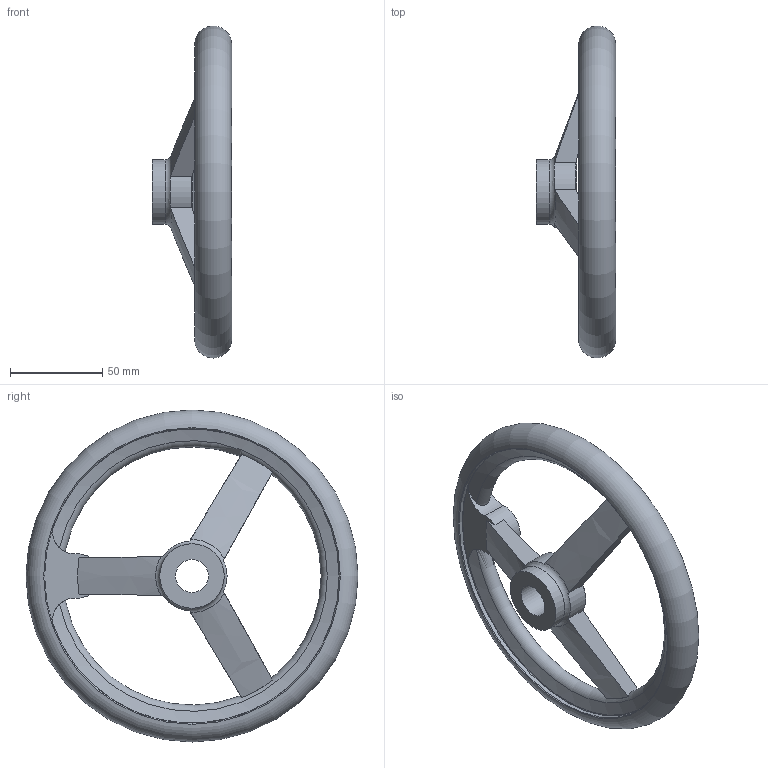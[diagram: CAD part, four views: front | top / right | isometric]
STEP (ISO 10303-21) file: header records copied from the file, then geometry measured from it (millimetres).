
FILE_DESCRIPTION( ( 'STEP AP203' ), '1' );
FILE_NAME( 'C:/Temp/Ganter_Step_05_03_2020/data/1_3/din_950/din_950_b/din_950_b_a/Handwheel DIN 950-GG-180-B18-A.stp', '2020-03-05T10:29:20', ( 'License CC BY-ND 4.0' ), ( 'CADENAS' ), ' ', 'PARTsolutions', ' ' );
FILE_SCHEMA( ( 'CONFIG_CONTROL_DESIGN' ) );
Length unit declared in the file: millimetre
Products named in the file (1): _Handwheel DIN 950-GG-180-B18-A
Bounding box: 43 x 179.99 x 179.99 mm (x, y, z)
Volume: 184154.2 mm3; surface area: 46724.1 mm2
Topology: 1 solids, 1 shells, 39 faces, 114 edges, 73 vertices
Faces by surface type: torus 12, cylinder 11, plane 10, cone 6
Full cylindrical faces by diameter (mm): 18 x1, 35 x2, 160 x2
Entity records: 1598 total; most frequent: CARTESIAN_POINT 624, ORIENTED_EDGE 194, DIRECTION 180, EDGE_CURVE 97, AXIS2_PLACEMENT_3D 84, VERTEX_POINT 70, EDGE_LOOP 56, FACE_OUTER_BOUND 51
